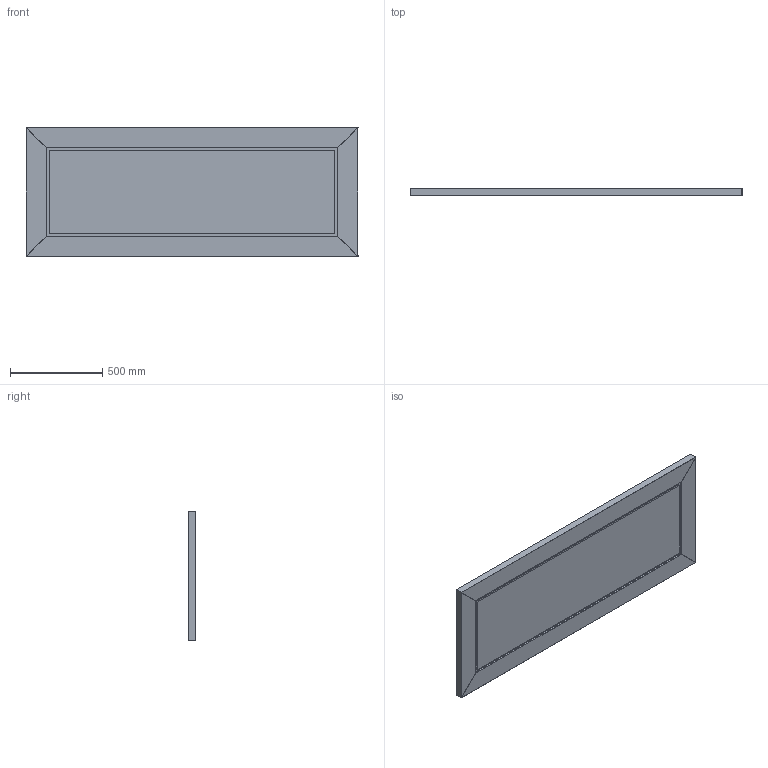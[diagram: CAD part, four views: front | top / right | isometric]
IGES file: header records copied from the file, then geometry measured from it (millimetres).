
Global section: file name: \\Archi-NAS\Comune\X GIOVANNI\SPECCHI\MIRR WOOD\MIRR WOOD_LED.igs; native system: Rhinoceros ( Feb 23 2021 ); preprocessor: Trout Lake IGES 012 Feb 23 2021; date: 230608.081913; units: millimetre
Bounding box: 1800 x 40 x 700 mm (x, y, z)
Surface area: 4447099.6 mm2 (no closed solid volume)
Topology: 0 solids, 0 shells, 48 faces, 450 edges, 450 vertices
Faces by surface type: bspline 48
